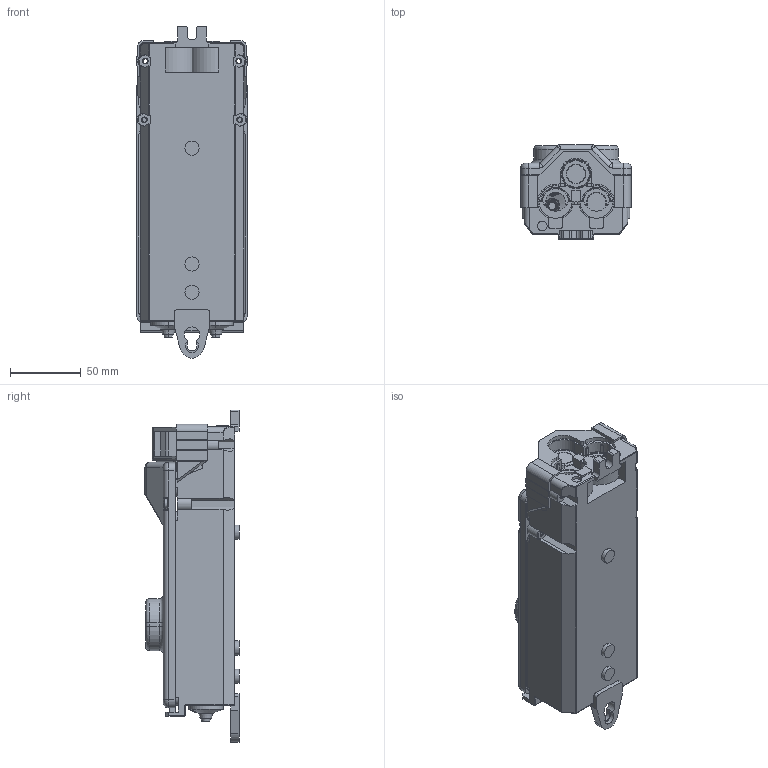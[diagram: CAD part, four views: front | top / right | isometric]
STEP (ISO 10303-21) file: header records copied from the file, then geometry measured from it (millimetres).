
FILE_DESCRIPTION (( 'STEP AP203' ), '1' );
FILE_NAME ('3D - HSW1195 Außenkontur.STEP', '2019-07-10T14:20:27', ( '' ), ( '' ), 'SwSTEP 2.0', 'SolidWorks 2013', '' );
FILE_SCHEMA (( 'CONFIG_CONTROL_DESIGN' ));
Length unit declared in the file: millimetre
Products named in the file (1): 3D - HSW1195 Außenkontur
Bounding box: 78.4 x 66.5 x 234.82 mm (x, y, z)
Surface area: 78121 mm2 (no closed solid volume)
Topology: 0 solids, 33 shells, 1109 faces, 3602 edges, 2452 vertices
Faces by surface type: plane 601, cylinder 213, bspline 135, cone 87, torus 67, sphere 6
Entity records: 47507 total; most frequent: CARTESIAN_POINT 17788, ORIENTED_EDGE 6030, DIRECTION 5527, EDGE_CURVE 3596, VERTEX_POINT 2452, VECTOR 2211, LINE 2211, AXIS2_PLACEMENT_3D 1658
